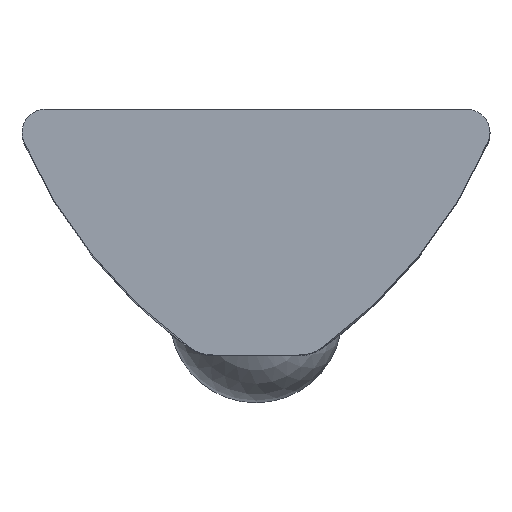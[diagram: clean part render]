
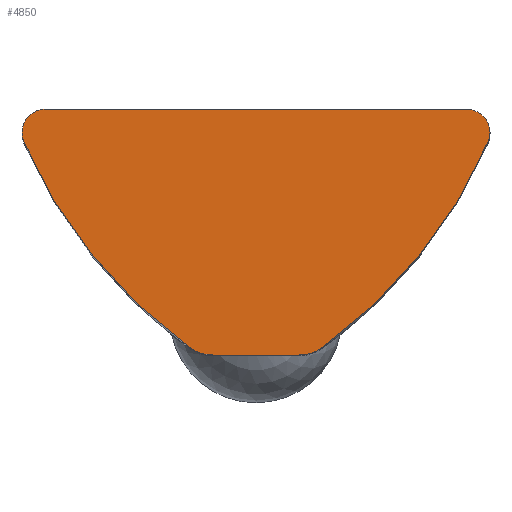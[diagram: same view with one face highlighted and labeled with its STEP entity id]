
A CAD part, top view. The second image highlights one B-rep face of the part: STEP entity #4850.
In plain terms, the highlighted planar face has unit normal (0, 0, 1).
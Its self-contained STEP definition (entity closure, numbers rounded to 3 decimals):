
#71 = VECTOR ( 'NONE', #3098, 1000. ) ;
#77 = DIRECTION ( 'NONE',  ( 0., 0., 1. ) ) ;
#104 = DIRECTION ( 'NONE',  ( 1., 0., 0. ) ) ;
#154 = EDGE_CURVE ( 'NONE', #6834, #1628, #4436, .T. ) ;
#170 = ORIENTED_EDGE ( 'NONE', *, *, #5782, .T. ) ;
#418 = AXIS2_PLACEMENT_3D ( 'NONE', #748, #77, #1726 ) ;
#651 = EDGE_CURVE ( 'NONE', #2859, #6580, #5664, .T. ) ;
#745 = CARTESIAN_POINT ( 'NONE',  ( -0.728, 0.7, 0. ) ) ;
#748 = CARTESIAN_POINT ( 'NONE',  ( 3.598, 3.8, 0. ) ) ;
#751 = CIRCLE ( 'NONE', #1800, 0.7 ) ;
#813 = CIRCLE ( 'NONE', #3720, 8.5 ) ;
#866 = AXIS2_PLACEMENT_3D ( 'NONE', #3453, #5590, #5980 ) ;
#985 = AXIS2_PLACEMENT_3D ( 'NONE', #5230, #3622, #6219 ) ;
#1000 = CARTESIAN_POINT ( 'NONE',  ( -1.137, 0.132, 0. ) ) ;
#1010 = DIRECTION ( 'NONE',  ( 1., 0., 0. ) ) ;
#1135 = CARTESIAN_POINT ( 'NONE',  ( -3.965, 3.64, 0. ) ) ;
#1331 = EDGE_CURVE ( 'NONE', #3286, #6160, #3435, .T. ) ;
#1628 = VERTEX_POINT ( 'NONE', #1135 ) ;
#1726 = DIRECTION ( 'NONE',  ( 1., 0., 0. ) ) ;
#1787 = DIRECTION ( 'NONE',  ( 0., 0., 1. ) ) ;
#1793 = CARTESIAN_POINT ( 'NONE',  ( -0.728, 0., 0. ) ) ;
#1800 = AXIS2_PLACEMENT_3D ( 'NONE', #745, #1787, #4982 ) ;
#2212 = CARTESIAN_POINT ( 'NONE',  ( -3.598, 3.8, 0. ) ) ;
#2481 = PLANE ( 'NONE',  #3094 ) ;
#2544 = LINE ( 'NONE', #5661, #71 ) ;
#2559 = VERTEX_POINT ( 'NONE', #4153 ) ;
#2590 = VERTEX_POINT ( 'NONE', #1000 ) ;
#2622 = ORIENTED_EDGE ( 'NONE', *, *, #154, .T. ) ;
#2707 = AXIS2_PLACEMENT_3D ( 'NONE', #5018, #4484, #6629 ) ;
#2775 = CIRCLE ( 'NONE', #985, 0.7 ) ;
#2859 = VERTEX_POINT ( 'NONE', #1793 ) ;
#2925 = ORIENTED_EDGE ( 'NONE', *, *, #4471, .T. ) ;
#3001 = EDGE_CURVE ( 'NONE', #6580, #2559, #2775, .T. ) ;
#3070 = CARTESIAN_POINT ( 'NONE',  ( -0.728, 0., 0. ) ) ;
#3094 = AXIS2_PLACEMENT_3D ( 'NONE', #5740, #6304, #1010 ) ;
#3098 = DIRECTION ( 'NONE',  ( -1., 0., 0. ) ) ;
#3099 = VECTOR ( 'NONE', #3279, 1000. ) ;
#3264 = CARTESIAN_POINT ( 'NONE',  ( 3.965, 3.64, 0. ) ) ;
#3269 = CIRCLE ( 'NONE', #2707, 8.5 ) ;
#3275 = CARTESIAN_POINT ( 'NONE',  ( -3.598, 4.2, 0. ) ) ;
#3279 = DIRECTION ( 'NONE',  ( 1., 0., 0. ) ) ;
#3286 = VERTEX_POINT ( 'NONE', #3264 ) ;
#3435 = CIRCLE ( 'NONE', #418, 0.4 ) ;
#3453 = CARTESIAN_POINT ( 'NONE',  ( 3.598, 3.8, 0. ) ) ;
#3601 = ORIENTED_EDGE ( 'NONE', *, *, #3001, .T. ) ;
#3622 = DIRECTION ( 'NONE',  ( 0., 0., 1. ) ) ;
#3648 = ORIENTED_EDGE ( 'NONE', *, *, #4536, .T. ) ;
#3720 = AXIS2_PLACEMENT_3D ( 'NONE', #4912, #5437, #104 ) ;
#3882 = CIRCLE ( 'NONE', #866, 0.4 ) ;
#4153 = CARTESIAN_POINT ( 'NONE',  ( 1.137, 0.132, 0. ) ) ;
#4336 = EDGE_LOOP ( 'NONE', ( #4712, #2925, #3648, #2622, #6612, #5998, #6820, #3601, #170 ) ) ;
#4436 = CIRCLE ( 'NONE', #4664, 0.4 ) ;
#4471 = EDGE_CURVE ( 'NONE', #6160, #5849, #3882, .T. ) ;
#4475 = CARTESIAN_POINT ( 'NONE',  ( 0.728, 0., 0. ) ) ;
#4484 = DIRECTION ( 'NONE',  ( 0., 0., 1. ) ) ;
#4536 = EDGE_CURVE ( 'NONE', #5849, #6834, #2544, .T. ) ;
#4664 = AXIS2_PLACEMENT_3D ( 'NONE', #2212, #6492, #6527 ) ;
#4685 = FACE_OUTER_BOUND ( 'NONE', #4336, .T. ) ;
#4712 = ORIENTED_EDGE ( 'NONE', *, *, #1331, .T. ) ;
#4850 = ADVANCED_FACE ( 'NONE', ( #4685 ), #2481, .T. ) ;
#4912 = CARTESIAN_POINT ( 'NONE',  ( 3.83, 7.03, 0. ) ) ;
#4982 = DIRECTION ( 'NONE',  ( 1., 0., 0. ) ) ;
#5018 = CARTESIAN_POINT ( 'NONE',  ( -3.83, 7.03, 0. ) ) ;
#5084 = CARTESIAN_POINT ( 'NONE',  ( 3.598, 4.2, 0. ) ) ;
#5121 = EDGE_CURVE ( 'NONE', #2590, #2859, #751, .T. ) ;
#5230 = CARTESIAN_POINT ( 'NONE',  ( 0.728, 0.7, 0. ) ) ;
#5437 = DIRECTION ( 'NONE',  ( 0., 0., 1. ) ) ;
#5590 = DIRECTION ( 'NONE',  ( 0., 0., 1. ) ) ;
#5661 = CARTESIAN_POINT ( 'NONE',  ( 3.598, 4.2, 0. ) ) ;
#5664 = LINE ( 'NONE', #3070, #3099 ) ;
#5740 = CARTESIAN_POINT ( 'NONE',  ( 3.598, 3.8, 0. ) ) ;
#5782 = EDGE_CURVE ( 'NONE', #2559, #3286, #3269, .T. ) ;
#5849 = VERTEX_POINT ( 'NONE', #5084 ) ;
#5980 = DIRECTION ( 'NONE',  ( 1., 0., 0. ) ) ;
#5998 = ORIENTED_EDGE ( 'NONE', *, *, #5121, .T. ) ;
#6160 = VERTEX_POINT ( 'NONE', #6417 ) ;
#6219 = DIRECTION ( 'NONE',  ( 1., 0., 0. ) ) ;
#6304 = DIRECTION ( 'NONE',  ( 0., 0., 1. ) ) ;
#6417 = CARTESIAN_POINT ( 'NONE',  ( 3.998, 3.8, 0. ) ) ;
#6492 = DIRECTION ( 'NONE',  ( 0., 0., 1. ) ) ;
#6527 = DIRECTION ( 'NONE',  ( 1., 0., 0. ) ) ;
#6580 = VERTEX_POINT ( 'NONE', #4475 ) ;
#6612 = ORIENTED_EDGE ( 'NONE', *, *, #6798, .T. ) ;
#6629 = DIRECTION ( 'NONE',  ( 1., 0., 0. ) ) ;
#6798 = EDGE_CURVE ( 'NONE', #1628, #2590, #813, .T. ) ;
#6820 = ORIENTED_EDGE ( 'NONE', *, *, #651, .T. ) ;
#6834 = VERTEX_POINT ( 'NONE', #3275 ) ;
